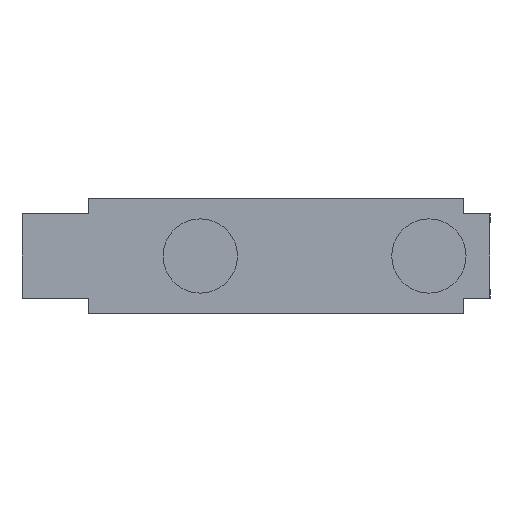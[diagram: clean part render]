
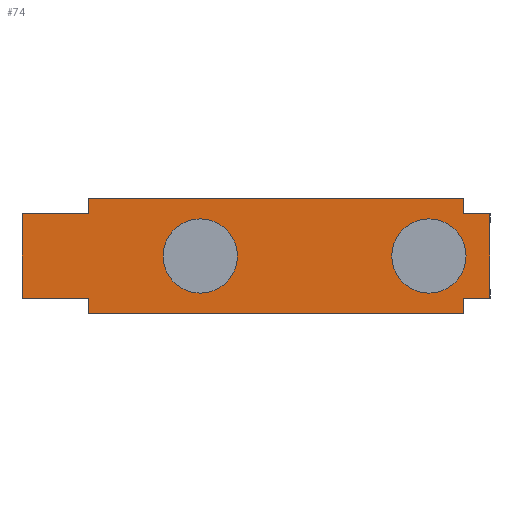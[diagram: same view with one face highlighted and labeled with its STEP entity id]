
A CAD part, left-side view. The second image highlights one B-rep face of the part: STEP entity #74.
In plain terms, the highlighted planar face has unit normal (-1, 0, 0).
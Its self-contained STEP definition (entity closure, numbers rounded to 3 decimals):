
#74 = ADVANCED_FACE ( 'NONE', ( #2320, #2316, #2325 ), #1661, .F. ) ;
#410 = CARTESIAN_POINT ( 'NONE',  ( 0.65, -5.2, 0. ) ) ;
#412 = CARTESIAN_POINT ( 'NONE',  ( 0.65, -4.9, 5.9 ) ) ;
#414 = CARTESIAN_POINT ( 'NONE',  ( 0.65, -4.9, -5.9 ) ) ;
#415 = CARTESIAN_POINT ( 'NONE',  ( 0.65, 37.2, 0. ) ) ;
#419 = CARTESIAN_POINT ( 'NONE',  ( 0.65, 56.95, 5.9 ) ) ;
#425 = CARTESIAN_POINT ( 'NONE',  ( 0.65, 47.6, 5.9 ) ) ;
#426 = CARTESIAN_POINT ( 'NONE',  ( 0.65, -4.9, 8. ) ) ;
#449 = CARTESIAN_POINT ( 'NONE',  ( 0.65, -8.55, 5.9 ) ) ;
#471 = CARTESIAN_POINT ( 'NONE',  ( 0.65, -4.9, -8. ) ) ;
#487 = CARTESIAN_POINT ( 'NONE',  ( 0.65, 5.2, 0. ) ) ;
#497 = CARTESIAN_POINT ( 'NONE',  ( 0.65, 56.95, -5.9 ) ) ;
#499 = CARTESIAN_POINT ( 'NONE',  ( 0.65, 26.8, 0. ) ) ;
#536 = CARTESIAN_POINT ( 'NONE',  ( 0.65, 47.6, -8. ) ) ;
#538 = CARTESIAN_POINT ( 'NONE',  ( 0.65, -8.55, -5.9 ) ) ;
#539 = CARTESIAN_POINT ( 'NONE',  ( 0.65, 47.6, 8. ) ) ;
#558 = CARTESIAN_POINT ( 'NONE',  ( 0.65, 47.6, -5.9 ) ) ;
#564 = CARTESIAN_POINT ( 'NONE',  ( 0.65, 47.6, -8. ) ) ;
#567 = DIRECTION ( 'NONE',  ( 0., 1., 0. ) ) ;
#602 = CARTESIAN_POINT ( 'NONE',  ( 0.65, 32., 0. ) ) ;
#603 = DIRECTION ( 'NONE',  ( -1., 0., 0. ) ) ;
#604 = DIRECTION ( 'NONE',  ( 0., -1., 0. ) ) ;
#615 = CARTESIAN_POINT ( 'NONE',  ( 0.65, -8.55, 5.9 ) ) ;
#616 = DIRECTION ( 'NONE',  ( 0., -1., 0. ) ) ;
#622 = CARTESIAN_POINT ( 'NONE',  ( 0.65, -8.55, -5.9 ) ) ;
#623 = DIRECTION ( 'NONE',  ( 0., 1., 0. ) ) ;
#630 = CARTESIAN_POINT ( 'NONE',  ( 0.65, 32., 0. ) ) ;
#632 = DIRECTION ( 'NONE',  ( -1., 0., 0. ) ) ;
#633 = DIRECTION ( 'NONE',  ( 0., -1., 0. ) ) ;
#651 = CARTESIAN_POINT ( 'NONE',  ( 0.65, 56.95, 5.9 ) ) ;
#657 = DIRECTION ( 'NONE',  ( 0., 0., 1. ) ) ;
#697 = CARTESIAN_POINT ( 'NONE',  ( 0.65, 47.6, 5.9 ) ) ;
#701 = DIRECTION ( 'NONE',  ( 0., -1., 0. ) ) ;
#797 = CARTESIAN_POINT ( 'NONE',  ( 0.65, 0., 0. ) ) ;
#798 = DIRECTION ( 'NONE',  ( -1., 0., 0. ) ) ;
#799 = DIRECTION ( 'NONE',  ( 0., -1., 0. ) ) ;
#806 = CARTESIAN_POINT ( 'NONE',  ( 0.65, -4.9, -8. ) ) ;
#818 = CARTESIAN_POINT ( 'NONE',  ( 0.65, 47.6, 8. ) ) ;
#819 = DIRECTION ( 'NONE',  ( 0., 1., 0. ) ) ;
#821 = DIRECTION ( 'NONE',  ( 0., 0., 1. ) ) ;
#838 = CARTESIAN_POINT ( 'NONE',  ( 0.65, 47.6, -5.9 ) ) ;
#848 = DIRECTION ( 'NONE',  ( 0., 1., 0. ) ) ;
#870 = CARTESIAN_POINT ( 'NONE',  ( 0.65, 47.6, -8. ) ) ;
#883 = DIRECTION ( 'NONE',  ( 0., 0., 1. ) ) ;
#911 = CARTESIAN_POINT ( 'NONE',  ( 0.65, -8.55, 5.9 ) ) ;
#918 = DIRECTION ( 'NONE',  ( 0., 0., -1. ) ) ;
#927 = CARTESIAN_POINT ( 'NONE',  ( 0.65, 47.6, -8. ) ) ;
#928 = DIRECTION ( 'NONE',  ( 0., 0., 1. ) ) ;
#935 = CARTESIAN_POINT ( 'NONE',  ( 0.65, 0., 0. ) ) ;
#967 = CARTESIAN_POINT ( 'NONE',  ( 0.65, -4.9, -8. ) ) ;
#968 = DIRECTION ( 'NONE',  ( 0., 0., 1. ) ) ;
#971 = DIRECTION ( 'NONE',  ( -1., 0., 0. ) ) ;
#972 = DIRECTION ( 'NONE',  ( 0., -1., 0. ) ) ;
#1097 = VERTEX_POINT ( 'NONE', #412 ) ;
#1098 = VERTEX_POINT ( 'NONE', #410 ) ;
#1101 = VERTEX_POINT ( 'NONE', #414 ) ;
#1103 = VERTEX_POINT ( 'NONE', #415 ) ;
#1108 = VERTEX_POINT ( 'NONE', #419 ) ;
#1114 = VERTEX_POINT ( 'NONE', #425 ) ;
#1115 = VERTEX_POINT ( 'NONE', #426 ) ;
#1138 = VERTEX_POINT ( 'NONE', #449 ) ;
#1160 = VERTEX_POINT ( 'NONE', #471 ) ;
#1176 = VERTEX_POINT ( 'NONE', #487 ) ;
#1186 = VERTEX_POINT ( 'NONE', #497 ) ;
#1188 = VERTEX_POINT ( 'NONE', #499 ) ;
#1226 = VERTEX_POINT ( 'NONE', #536 ) ;
#1228 = VERTEX_POINT ( 'NONE', #538 ) ;
#1229 = VERTEX_POINT ( 'NONE', #539 ) ;
#1253 = VERTEX_POINT ( 'NONE', #558 ) ;
#1446 = VECTOR ( 'NONE', #848, 1000. ) ;
#1457 = LINE ( 'NONE', #870, #1479 ) ;
#1479 = VECTOR ( 'NONE', #883, 1000. ) ;
#1507 = VECTOR ( 'NONE', #918, 1000. ) ;
#1509 = LINE ( 'NONE', #911, #1507 ) ;
#1519 = LINE ( 'NONE', #927, #1520 ) ;
#1520 = VECTOR ( 'NONE', #928, 1000. ) ;
#1555 = LINE ( 'NONE', #967, #1556 ) ;
#1556 = VECTOR ( 'NONE', #968, 1000. ) ;
#1561 = CIRCLE ( 'NONE', #1779, 5.2 ) ;
#1654 = DIRECTION ( 'NONE',  ( 1., 0., 0. ) ) ;
#1655 = DIRECTION ( 'NONE',  ( 0., -1., 0. ) ) ;
#1661 = PLANE ( 'NONE',  #1667 ) ;
#1662 = CARTESIAN_POINT ( 'NONE',  ( 0.65, 47.6, -8. ) ) ;
#1667 = AXIS2_PLACEMENT_3D ( 'NONE', #1662, #1654, #1655 ) ;
#1669 = EDGE_CURVE ( 'NONE', #1160, #1226, #2418, .T. ) ;
#1688 = EDGE_CURVE ( 'NONE', #1103, #1188, #2455, .T. ) ;
#1695 = EDGE_CURVE ( 'NONE', #1097, #1138, #2463, .T. ) ;
#1699 = EDGE_CURVE ( 'NONE', #1228, #1101, #2469, .T. ) ;
#1704 = EDGE_CURVE ( 'NONE', #1188, #1103, #2479, .T. ) ;
#1721 = EDGE_CURVE ( 'NONE', #1186, #1108, #2492, .T. ) ;
#1750 = EDGE_CURVE ( 'NONE', #1108, #1114, #2528, .T. ) ;
#1779 = AXIS2_PLACEMENT_3D ( 'NONE', #935, #971, #972 ) ;
#1823 = EDGE_CURVE ( 'NONE', #1176, #1098, #2629, .T. ) ;
#1843 = EDGE_CURVE ( 'NONE', #1115, #1229, #2646, .T. ) ;
#1844 = EDGE_CURVE ( 'NONE', #1097, #1115, #2626, .T. ) ;
#1869 = EDGE_CURVE ( 'NONE', #1253, #1186, #2343, .T. ) ;
#1873 = AXIS2_PLACEMENT_3D ( 'NONE', #797, #798, #799 ) ;
#1898 = EDGE_CURVE ( 'NONE', #1114, #1229, #1457, .T. ) ;
#1923 = EDGE_CURVE ( 'NONE', #1138, #1228, #1509, .T. ) ;
#1931 = AXIS2_PLACEMENT_3D ( 'NONE', #602, #603, #604 ) ;
#1933 = EDGE_CURVE ( 'NONE', #1226, #1253, #1519, .T. ) ;
#1939 = AXIS2_PLACEMENT_3D ( 'NONE', #630, #632, #633 ) ;
#1963 = EDGE_CURVE ( 'NONE', #1160, #1101, #1555, .T. ) ;
#1968 = EDGE_CURVE ( 'NONE', #1098, #1176, #1561, .T. ) ;
#2174 = ORIENTED_EDGE ( 'NONE', *, *, #1688, .F. ) ;
#2175 = ORIENTED_EDGE ( 'NONE', *, *, #1704, .F. ) ;
#2183 = ORIENTED_EDGE ( 'NONE', *, *, #1843, .T. ) ;
#2184 = ORIENTED_EDGE ( 'NONE', *, *, #1898, .F. ) ;
#2185 = ORIENTED_EDGE ( 'NONE', *, *, #1968, .F. ) ;
#2186 = ORIENTED_EDGE ( 'NONE', *, *, #1823, .F. ) ;
#2187 = ORIENTED_EDGE ( 'NONE', *, *, #1869, .F. ) ;
#2188 = ORIENTED_EDGE ( 'NONE', *, *, #1923, .F. ) ;
#2189 = ORIENTED_EDGE ( 'NONE', *, *, #1844, .T. ) ;
#2190 = ORIENTED_EDGE ( 'NONE', *, *, #1695, .F. ) ;
#2191 = ORIENTED_EDGE ( 'NONE', *, *, #1699, .F. ) ;
#2192 = ORIENTED_EDGE ( 'NONE', *, *, #1933, .F. ) ;
#2193 = ORIENTED_EDGE ( 'NONE', *, *, #1963, .T. ) ;
#2194 = ORIENTED_EDGE ( 'NONE', *, *, #1669, .F. ) ;
#2195 = ORIENTED_EDGE ( 'NONE', *, *, #1750, .F. ) ;
#2196 = ORIENTED_EDGE ( 'NONE', *, *, #1721, .F. ) ;
#2225 = EDGE_LOOP ( 'NONE', ( #2185, #2186 ) ) ;
#2227 = EDGE_LOOP ( 'NONE', ( #2175, #2174 ) ) ;
#2229 = EDGE_LOOP ( 'NONE', ( #2183, #2184, #2195, #2196, #2187, #2192, #2194, #2193, #2191, #2188, #2190, #2189 ) ) ;
#2316 = FACE_OUTER_BOUND ( 'NONE', #2229, .T. ) ;
#2320 = FACE_BOUND ( 'NONE', #2225, .T. ) ;
#2325 = FACE_BOUND ( 'NONE', #2227, .T. ) ;
#2343 = LINE ( 'NONE', #838, #1446 ) ;
#2418 = LINE ( 'NONE', #564, #2422 ) ;
#2422 = VECTOR ( 'NONE', #567, 1000. ) ;
#2455 = CIRCLE ( 'NONE', #1931, 5.2 ) ;
#2463 = LINE ( 'NONE', #615, #2464 ) ;
#2464 = VECTOR ( 'NONE', #616, 1000. ) ;
#2469 = LINE ( 'NONE', #622, #2470 ) ;
#2470 = VECTOR ( 'NONE', #623, 1000. ) ;
#2479 = CIRCLE ( 'NONE', #1939, 5.2 ) ;
#2492 = LINE ( 'NONE', #651, #2497 ) ;
#2497 = VECTOR ( 'NONE', #657, 1000. ) ;
#2528 = LINE ( 'NONE', #697, #2537 ) ;
#2537 = VECTOR ( 'NONE', #701, 1000. ) ;
#2626 = LINE ( 'NONE', #806, #2648 ) ;
#2629 = CIRCLE ( 'NONE', #1873, 5.2 ) ;
#2646 = LINE ( 'NONE', #818, #2647 ) ;
#2647 = VECTOR ( 'NONE', #819, 1000. ) ;
#2648 = VECTOR ( 'NONE', #821, 1000. ) ;
